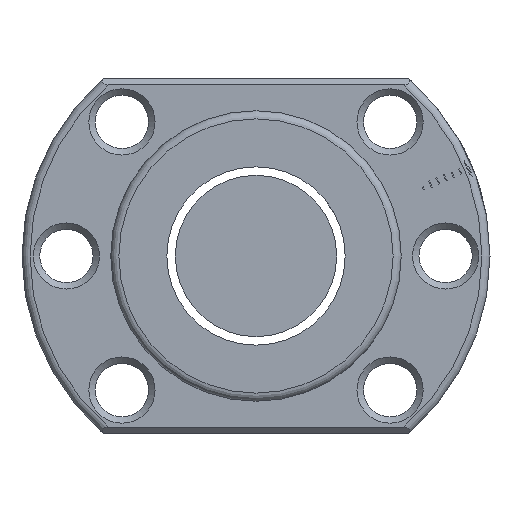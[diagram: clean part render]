
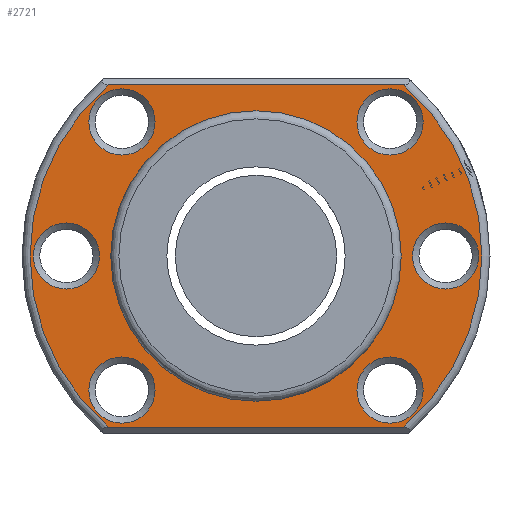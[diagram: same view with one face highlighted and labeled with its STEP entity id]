
A CAD part, left-side view. The second image highlights one B-rep face of the part: STEP entity #2721.
In plain terms, the highlighted planar face has unit normal (-1, 0, 0).
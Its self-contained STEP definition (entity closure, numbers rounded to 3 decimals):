
#40 = FACE_BOUND ( 'NONE', #556, .T. ) ;
#92 = DIRECTION ( 'NONE',  ( 0., 0., 1. ) ) ;
#102 = VERTEX_POINT ( 'NONE', #2619 ) ;
#114 = DIRECTION ( 'NONE',  ( 0., 0., 1. ) ) ;
#209 = DIRECTION ( 'NONE',  ( 0., 1., 0. ) ) ;
#212 = DIRECTION ( 'NONE',  ( -1., 0., 0. ) ) ;
#218 = DIRECTION ( 'NONE',  ( 1., 0., 0. ) ) ;
#269 = DIRECTION ( 'NONE',  ( 1., 0., 0. ) ) ;
#278 = FACE_BOUND ( 'NONE', #1636, .T. ) ;
#291 = AXIS2_PLACEMENT_3D ( 'NONE', #559, #1548, #509 ) ;
#298 = EDGE_CURVE ( 'NONE', #791, #791, #3097, .T. ) ;
#312 = ORIENTED_EDGE ( 'NONE', *, *, #2980, .T. ) ;
#351 = VERTEX_POINT ( 'NONE', #399 ) ;
#392 = AXIS2_PLACEMENT_3D ( 'NONE', #2904, #212, #759 ) ;
#399 = CARTESIAN_POINT ( 'NONE',  ( -45., 23.5, 4.1 ) ) ;
#406 = ORIENTED_EDGE ( 'NONE', *, *, #2371, .T. ) ;
#417 = VERTEX_POINT ( 'NONE', #1899 ) ;
#434 = CARTESIAN_POINT ( 'NONE',  ( -45., 18.291, 21.2 ) ) ;
#441 = ORIENTED_EDGE ( 'NONE', *, *, #1133, .T. ) ;
#505 = FACE_BOUND ( 'NONE', #555, .T. ) ;
#509 = DIRECTION ( 'NONE',  ( 0., 0., 1. ) ) ;
#519 = AXIS2_PLACEMENT_3D ( 'NONE', #2480, #269, #1756 ) ;
#555 = EDGE_LOOP ( 'NONE', ( #406 ) ) ;
#556 = EDGE_LOOP ( 'NONE', ( #2586 ) ) ;
#559 = CARTESIAN_POINT ( 'NONE',  ( -45., -16.617, -16.617 ) ) ;
#642 = CARTESIAN_POINT ( 'NONE',  ( -45., -16.617, -12.517 ) ) ;
#660 = CARTESIAN_POINT ( 'NONE',  ( -45., -23.5, 4.1 ) ) ;
#675 = AXIS2_PLACEMENT_3D ( 'NONE', #880, #2138, #2106 ) ;
#725 = CARTESIAN_POINT ( 'NONE',  ( -45., 29., 21.2 ) ) ;
#759 = DIRECTION ( 'NONE',  ( 0., 0., 1. ) ) ;
#791 = VERTEX_POINT ( 'NONE', #2789 ) ;
#799 = EDGE_CURVE ( 'NONE', #2618, #925, #2868, .T. ) ;
#842 = CARTESIAN_POINT ( 'NONE',  ( -45., -18.291, -21.2 ) ) ;
#880 = CARTESIAN_POINT ( 'NONE',  ( -45., 16.617, -16.617 ) ) ;
#892 = ORIENTED_EDGE ( 'NONE', *, *, #298, .T. ) ;
#901 = VERTEX_POINT ( 'NONE', #2867 ) ;
#925 = VERTEX_POINT ( 'NONE', #434 ) ;
#928 = VECTOR ( 'NONE', #209, 1000. ) ;
#971 = AXIS2_PLACEMENT_3D ( 'NONE', #1981, #2251, #1306 ) ;
#990 = CIRCLE ( 'NONE', #675, 4.1 ) ;
#1012 = ORIENTED_EDGE ( 'NONE', *, *, #1241, .T. ) ;
#1034 = LINE ( 'NONE', #1968, #2409 ) ;
#1082 = CARTESIAN_POINT ( 'NONE',  ( -45., 23.5, 0. ) ) ;
#1133 = EDGE_CURVE ( 'NONE', #925, #102, #2404, .T. ) ;
#1138 = EDGE_LOOP ( 'NONE', ( #2376 ) ) ;
#1140 = AXIS2_PLACEMENT_3D ( 'NONE', #1082, #3044, #92 ) ;
#1172 = DIRECTION ( 'NONE',  ( 1., 0., 0. ) ) ;
#1210 = DIRECTION ( 'NONE',  ( 0., 0., 1. ) ) ;
#1211 = CARTESIAN_POINT ( 'NONE',  ( -45., 0., 0. ) ) ;
#1226 = CARTESIAN_POINT ( 'NONE',  ( -45., -16.617, 16.617 ) ) ;
#1241 = EDGE_CURVE ( 'NONE', #2563, #2563, #2299, .T. ) ;
#1250 = AXIS2_PLACEMENT_3D ( 'NONE', #1226, #218, #1210 ) ;
#1303 = EDGE_LOOP ( 'NONE', ( #441, #1413, #312, #1783 ) ) ;
#1306 = DIRECTION ( 'NONE',  ( 0., 0., 1. ) ) ;
#1336 = ORIENTED_EDGE ( 'NONE', *, *, #2114, .T. ) ;
#1348 = CARTESIAN_POINT ( 'NONE',  ( -45., 29., 0. ) ) ;
#1361 = PLANE ( 'NONE',  #2783 ) ;
#1413 = ORIENTED_EDGE ( 'NONE', *, *, #2840, .T. ) ;
#1500 = CIRCLE ( 'NONE', #1140, 4.1 ) ;
#1508 = FACE_OUTER_BOUND ( 'NONE', #1303, .T. ) ;
#1525 = EDGE_LOOP ( 'NONE', ( #1336 ) ) ;
#1548 = DIRECTION ( 'NONE',  ( 1., 0., 0. ) ) ;
#1613 = VERTEX_POINT ( 'NONE', #660 ) ;
#1636 = EDGE_LOOP ( 'NONE', ( #2703 ) ) ;
#1749 = FACE_BOUND ( 'NONE', #1525, .T. ) ;
#1756 = DIRECTION ( 'NONE',  ( 0., 0., 1. ) ) ;
#1783 = ORIENTED_EDGE ( 'NONE', *, *, #799, .T. ) ;
#1854 = VERTEX_POINT ( 'NONE', #1868 ) ;
#1868 = CARTESIAN_POINT ( 'NONE',  ( -45., 16.617, 20.717 ) ) ;
#1890 = EDGE_LOOP ( 'NONE', ( #892 ) ) ;
#1899 = CARTESIAN_POINT ( 'NONE',  ( -45., -16.617, 20.717 ) ) ;
#1912 = AXIS2_PLACEMENT_3D ( 'NONE', #2443, #1172, #2670 ) ;
#1968 = CARTESIAN_POINT ( 'NONE',  ( -45., 29., -21.2 ) ) ;
#1970 = AXIS2_PLACEMENT_3D ( 'NONE', #1211, #2192, #3166 ) ;
#1981 = CARTESIAN_POINT ( 'NONE',  ( -45., 0., 0. ) ) ;
#1992 = FACE_BOUND ( 'NONE', #1138, .T. ) ;
#2029 = DIRECTION ( 'NONE',  ( 0., -1., 0. ) ) ;
#2058 = EDGE_CURVE ( 'NONE', #1854, #1854, #2528, .T. ) ;
#2106 = DIRECTION ( 'NONE',  ( 0., 0., 1. ) ) ;
#2114 = EDGE_CURVE ( 'NONE', #351, #351, #1500, .T. ) ;
#2138 = DIRECTION ( 'NONE',  ( 1., 0., 0. ) ) ;
#2192 = DIRECTION ( 'NONE',  ( 1., 0., 0. ) ) ;
#2247 = FACE_BOUND ( 'NONE', #2763, .T. ) ;
#2250 = EDGE_CURVE ( 'NONE', #901, #901, #990, .T. ) ;
#2251 = DIRECTION ( 'NONE',  ( -1., 0., 0. ) ) ;
#2261 = CARTESIAN_POINT ( 'NONE',  ( -45., -18.291, 21.2 ) ) ;
#2299 = CIRCLE ( 'NONE', #291, 4.1 ) ;
#2315 = EDGE_CURVE ( 'NONE', #1613, #1613, #2942, .T. ) ;
#2323 = CIRCLE ( 'NONE', #1250, 4.1 ) ;
#2371 = EDGE_CURVE ( 'NONE', #417, #417, #2323, .T. ) ;
#2373 = DIRECTION ( 'NONE',  ( -1., 0., 0. ) ) ;
#2376 = ORIENTED_EDGE ( 'NONE', *, *, #2058, .T. ) ;
#2404 = CIRCLE ( 'NONE', #971, 28. ) ;
#2409 = VECTOR ( 'NONE', #2029, 1000. ) ;
#2443 = CARTESIAN_POINT ( 'NONE',  ( -45., -23.5, 0. ) ) ;
#2480 = CARTESIAN_POINT ( 'NONE',  ( -45., 16.617, 16.617 ) ) ;
#2528 = CIRCLE ( 'NONE', #519, 4.1 ) ;
#2563 = VERTEX_POINT ( 'NONE', #642 ) ;
#2586 = ORIENTED_EDGE ( 'NONE', *, *, #2315, .T. ) ;
#2618 = VERTEX_POINT ( 'NONE', #2261 ) ;
#2619 = CARTESIAN_POINT ( 'NONE',  ( -45., 18.291, -21.2 ) ) ;
#2668 = CIRCLE ( 'NONE', #392, 28. ) ;
#2670 = DIRECTION ( 'NONE',  ( 0., 0., 1. ) ) ;
#2703 = ORIENTED_EDGE ( 'NONE', *, *, #2250, .T. ) ;
#2721 = ADVANCED_FACE ( 'NONE', ( #2247, #40, #505, #1992, #1749, #278, #2729, #1508 ), #1361, .T. ) ;
#2729 = FACE_BOUND ( 'NONE', #1890, .T. ) ;
#2763 = EDGE_LOOP ( 'NONE', ( #1012 ) ) ;
#2783 = AXIS2_PLACEMENT_3D ( 'NONE', #1348, #2373, #114 ) ;
#2789 = CARTESIAN_POINT ( 'NONE',  ( -45., 0., -18. ) ) ;
#2840 = EDGE_CURVE ( 'NONE', #102, #3132, #1034, .T. ) ;
#2867 = CARTESIAN_POINT ( 'NONE',  ( -45., 16.617, -12.517 ) ) ;
#2868 = LINE ( 'NONE', #725, #928 ) ;
#2904 = CARTESIAN_POINT ( 'NONE',  ( -45., 0., 0. ) ) ;
#2942 = CIRCLE ( 'NONE', #1912, 4.1 ) ;
#2980 = EDGE_CURVE ( 'NONE', #3132, #2618, #2668, .T. ) ;
#3044 = DIRECTION ( 'NONE',  ( 1., 0., 0. ) ) ;
#3097 = CIRCLE ( 'NONE', #1970, 18. ) ;
#3132 = VERTEX_POINT ( 'NONE', #842 ) ;
#3166 = DIRECTION ( 'NONE',  ( 0., 0., -1. ) ) ;
